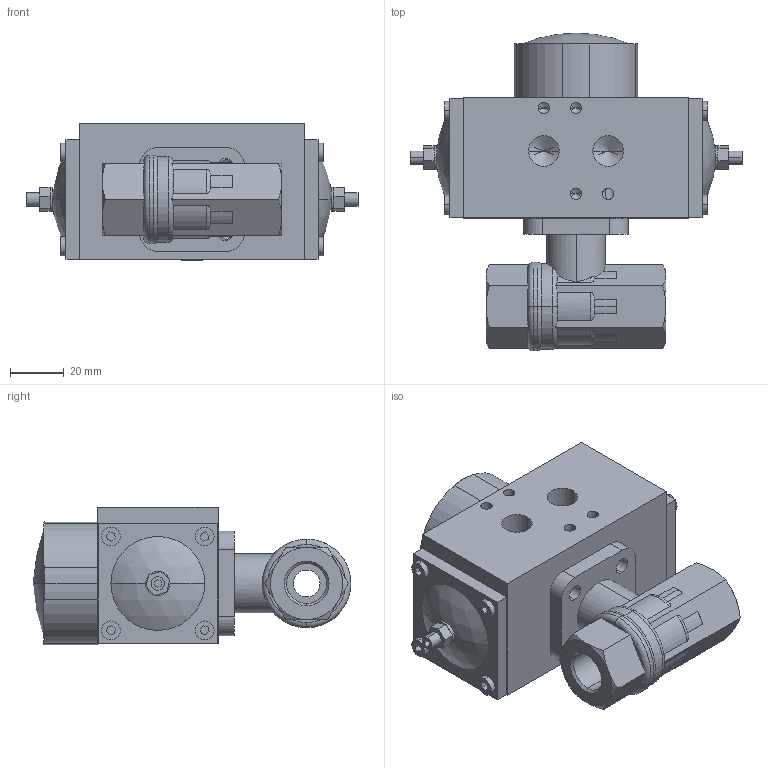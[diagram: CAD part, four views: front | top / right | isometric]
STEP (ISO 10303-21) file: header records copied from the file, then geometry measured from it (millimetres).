
FILE_DESCRIPTION (( 'STEP AP214' ), '1' );
FILE_NAME ('A25-DN10-G3_8+AP0.step', '2011-03-03T09:45:18', ( '' ), ( '' ), 'SwSTEP 2.0', 'SolidWorks 2011', '' );
FILE_SCHEMA (( 'AUTOMOTIVE_DESIGN' ));
Length unit declared in the file: millimetre
Products named in the file (3): Ballvalve A25-DN10 G3_8; AP0_Default<As Machined>; A25-DN10-G3_8+AP0
Assembly tree (2 placements, depth 2):
  A25-DN10-G3_8+AP0
    AP0_Default<As Machined>
    Ballvalve A25-DN10 G3_8
Bounding box: 123.81 x 118.49 x 51.44 mm (x, y, z)
Volume: 355168.6 mm3; surface area: 62490.3 mm2
Topology: 6 solids, 6 shells, 384 faces, 941 edges, 589 vertices
Faces by surface type: plane 213, cylinder 106, cone 45, torus 14, sphere 6
Entity records: 12538 total; most frequent: CARTESIAN_POINT 2459, DIRECTION 1905, ORIENTED_EDGE 1830, EDGE_CURVE 915, AXIS2_PLACEMENT_3D 675, VERTEX_POINT 589, LINE 555, VECTOR 555
